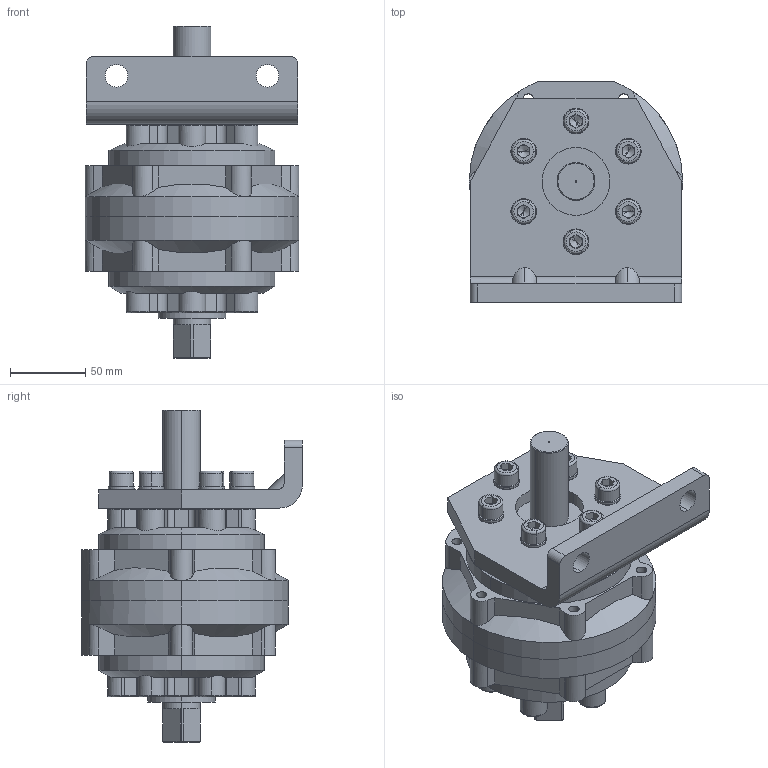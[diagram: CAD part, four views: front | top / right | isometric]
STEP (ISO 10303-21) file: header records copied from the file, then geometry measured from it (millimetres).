
FILE_DESCRIPTION (( 'STEP AP203' ), '1' );
FILE_NAME ('PRN300#-#-#-L1.STEP', '2016-01-14T16:45:16', ( '' ), ( '' ), 'SwSTEP 2.0', 'SolidWorks 2014', '' );
FILE_SCHEMA (( 'CONFIG_CONTROL_DESIGN' ));
Length unit declared in the file: millimetre
Products named in the file (8): PRN300 (1); M10T2.5墊片; PRN300 (3); ISO 4762 M10 x 25; mark-PRN300; PRN300 (2); PRN300#-#-#-L1; PRN300#-#-#-L1 (2)
Assembly tree (17 placements, depth 2):
  PRN300#-#-#-L1
    PRN300 (2)
    PRN300 (1)
    PRN300 (3)
    mark-PRN300
    PRN300#-#-#-L1 (2)
    ISO 4762 M10 x 25  x6
    M10T2.5墊片  x6
Bounding box: 141.5 x 146.13 x 220 mm (x, y, z)
Volume: 1606865.2 mm3; surface area: 216442.5 mm2
Topology: 23 solids, 23 shells, 756 faces, 1830 edges, 1115 vertices
Faces by surface type: plane 288, cylinder 283, torus 100, cone 77, bspline 8
Entity records: 19105 total; most frequent: CARTESIAN_POINT 4051, DIRECTION 3067, ORIENTED_EDGE 2820, EDGE_CURVE 1410, AXIS2_PLACEMENT_3D 1182, VERTEX_POINT 890, VECTOR 703, LINE 703
